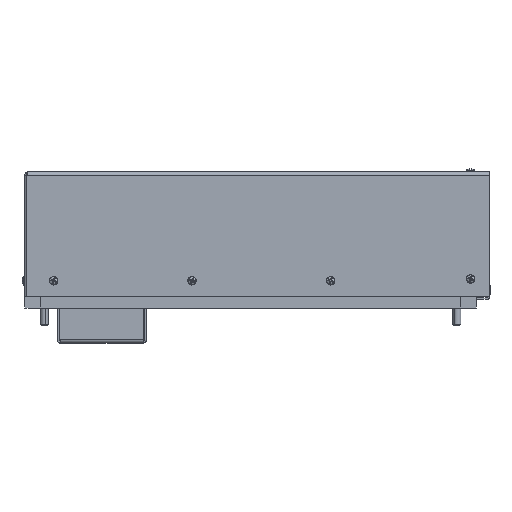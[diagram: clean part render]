
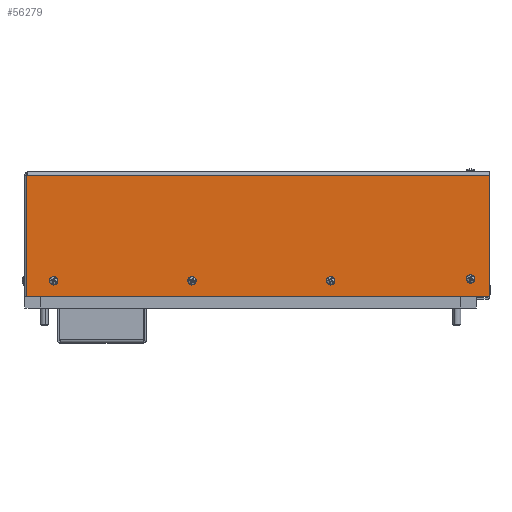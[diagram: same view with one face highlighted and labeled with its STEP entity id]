
A CAD part, left-side view. The second image highlights one B-rep face of the part: STEP entity #56279.
In plain terms, the highlighted planar face has unit normal (-1, 0, 0).
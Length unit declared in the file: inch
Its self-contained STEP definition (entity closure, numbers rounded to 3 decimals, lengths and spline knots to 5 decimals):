
#221 = EDGE_LOOP ( 'NONE', ( #44136, #24552, #30305, #48514 ) ) ;
#2211 = DIRECTION ( 'NONE',  ( 1., 0., 0. ) ) ;
#3047 = ORIENTED_EDGE ( 'NONE', *, *, #59186, .T. ) ;
#4791 = CARTESIAN_POINT ( 'NONE',  ( -7.09, 13.9323, 0.3385 ) ) ;
#5047 = CARTESIAN_POINT ( 'NONE',  ( -7.09, 0.5351, 0.4998 ) ) ;
#5324 = EDGE_CURVE ( 'NONE', #72364, #11125, #74904, .T. ) ;
#5391 = EDGE_CURVE ( 'NONE', #12387, #92620, #35085, .T. ) ;
#5515 = DIRECTION ( 'NONE',  ( 1., 0., 0. ) ) ;
#5801 = CARTESIAN_POINT ( 'NONE',  ( -7.09, 5.0323, 0.5415 ) ) ;
#5974 = AXIS2_PLACEMENT_3D ( 'NONE', #19432, #11313, #78655 ) ;
#5990 = CARTESIAN_POINT ( 'NONE',  ( -7.09, 13.9323, 0.44 ) ) ;
#6752 = AXIS2_PLACEMENT_3D ( 'NONE', #32824, #82582, #91198 ) ;
#7280 = EDGE_CURVE ( 'NONE', #12387, #74825, #19071, .T. ) ;
#8228 = CIRCLE ( 'NONE', #6752, 0.1015 ) ;
#9350 = CARTESIAN_POINT ( 'NONE',  ( -7.09, -0.0899, 3.94 ) ) ;
#9534 = VECTOR ( 'NONE', #90390, 39.37008 ) ;
#9595 = EDGE_CURVE ( 'NONE', #18881, #37401, #46375, .T. ) ;
#11125 = VERTEX_POINT ( 'NONE', #4791 ) ;
#11313 = DIRECTION ( 'NONE',  ( 1., 0., 0. ) ) ;
#12054 = CARTESIAN_POINT ( 'NONE',  ( -7.09, -0.0899, 3.833 ) ) ;
#12250 = DIRECTION ( 'NONE',  ( 0., 0., -1. ) ) ;
#12387 = VERTEX_POINT ( 'NONE', #28330 ) ;
#13098 = VERTEX_POINT ( 'NONE', #43131 ) ;
#13373 = EDGE_LOOP ( 'NONE', ( #3047, #88870 ) ) ;
#14292 = ORIENTED_EDGE ( 'NONE', *, *, #71629, .T. ) ;
#15500 = CARTESIAN_POINT ( 'NONE',  ( -7.09, -0.0899, -0.06 ) ) ;
#16104 = CIRCLE ( 'NONE', #69534, 0.1015 ) ;
#16996 = FACE_BOUND ( 'NONE', #13373, .T. ) ;
#17081 = VECTOR ( 'NONE', #77361, 39.37008 ) ;
#18260 = AXIS2_PLACEMENT_3D ( 'NONE', #30339, #59389, #81947 ) ;
#18881 = VERTEX_POINT ( 'NONE', #5801 ) ;
#19022 = DIRECTION ( 'NONE',  ( 1., 0., 0. ) ) ;
#19071 = LINE ( 'NONE', #84572, #17081 ) ;
#19432 = CARTESIAN_POINT ( 'NONE',  ( -7.09, 5.0323, 0.44 ) ) ;
#20414 = CARTESIAN_POINT ( 'NONE',  ( -7.09, 13.9323, 0.5415 ) ) ;
#21265 = DIRECTION ( 'NONE',  ( 0., 0., -1. ) ) ;
#21369 = AXIS2_PLACEMENT_3D ( 'NONE', #9350, #2211, #23278 ) ;
#23278 = DIRECTION ( 'NONE',  ( 0., 0., -1. ) ) ;
#24552 = ORIENTED_EDGE ( 'NONE', *, *, #5391, .T. ) ;
#25578 = AXIS2_PLACEMENT_3D ( 'NONE', #5047, #5515, #77677 ) ;
#25956 = CARTESIAN_POINT ( 'NONE',  ( -7.09, 0.5351, 0.6013 ) ) ;
#27604 = AXIS2_PLACEMENT_3D ( 'NONE', #5990, #72392, #21265 ) ;
#28330 = CARTESIAN_POINT ( 'NONE',  ( -7.09, 14.78656, 3.833 ) ) ;
#28453 = VERTEX_POINT ( 'NONE', #79880 ) ;
#29125 = VECTOR ( 'NONE', #48883, 39.37008 ) ;
#29491 = EDGE_CURVE ( 'NONE', #13098, #74825, #84643, .T. ) ;
#30010 = DIRECTION ( 'NONE',  ( 0., 0., -1. ) ) ;
#30305 = ORIENTED_EDGE ( 'NONE', *, *, #42320, .T. ) ;
#30339 = CARTESIAN_POINT ( 'NONE',  ( -7.09, 0.5351, 0.4998 ) ) ;
#30882 = FACE_BOUND ( 'NONE', #45826, .T. ) ;
#31095 = CIRCLE ( 'NONE', #58497, 0.1015 ) ;
#31937 = CARTESIAN_POINT ( 'NONE',  ( -7.09, 5.0323, 0.44 ) ) ;
#32824 = CARTESIAN_POINT ( 'NONE',  ( -7.09, 13.9323, 0.44 ) ) ;
#33814 = EDGE_CURVE ( 'NONE', #28453, #44959, #31095, .T. ) ;
#34969 = CIRCLE ( 'NONE', #18260, 0.1015 ) ;
#35085 = LINE ( 'NONE', #93469, #29125 ) ;
#37401 = VERTEX_POINT ( 'NONE', #70337 ) ;
#37530 = DIRECTION ( 'NONE',  ( 1., 0., 0. ) ) ;
#37934 = FACE_BOUND ( 'NONE', #51638, .T. ) ;
#39221 = CIRCLE ( 'NONE', #25578, 0.1015 ) ;
#39943 = EDGE_CURVE ( 'NONE', #41273, #69272, #34969, .T. ) ;
#41217 = ORIENTED_EDGE ( 'NONE', *, *, #39943, .T. ) ;
#41273 = VERTEX_POINT ( 'NONE', #74204 ) ;
#42320 = EDGE_CURVE ( 'NONE', #92620, #13098, #51702, .T. ) ;
#43131 = CARTESIAN_POINT ( 'NONE',  ( -7.09, -0.0899, -0.06 ) ) ;
#44040 = ORIENTED_EDGE ( 'NONE', *, *, #67835, .T. ) ;
#44136 = ORIENTED_EDGE ( 'NONE', *, *, #7280, .F. ) ;
#44959 = VERTEX_POINT ( 'NONE', #65495 ) ;
#45568 = PLANE ( 'NONE',  #21369 ) ;
#45826 = EDGE_LOOP ( 'NONE', ( #44040, #81941 ) ) ;
#45950 = DIRECTION ( 'NONE',  ( 0., -1., 0. ) ) ;
#46375 = CIRCLE ( 'NONE', #93861, 0.1015 ) ;
#48514 = ORIENTED_EDGE ( 'NONE', *, *, #29491, .T. ) ;
#48548 = CIRCLE ( 'NONE', #5974, 0.1015 ) ;
#48883 = DIRECTION ( 'NONE',  ( 0., 0., -1. ) ) ;
#51638 = EDGE_LOOP ( 'NONE', ( #41217, #14292 ) ) ;
#51702 = LINE ( 'NONE', #15500, #75983 ) ;
#54889 = CARTESIAN_POINT ( 'NONE',  ( -7.09, -0.0899, 3.94 ) ) ;
#55675 = CARTESIAN_POINT ( 'NONE',  ( -7.09, 9.4823, 0.44 ) ) ;
#56279 = ADVANCED_FACE ( 'NONE', ( #16996, #37934, #73907, #30882, #59938 ), #45568, .F. ) ;
#58497 = AXIS2_PLACEMENT_3D ( 'NONE', #81126, #37530, #30010 ) ;
#59186 = EDGE_CURVE ( 'NONE', #37401, #18881, #48548, .T. ) ;
#59389 = DIRECTION ( 'NONE',  ( 1., 0., 0. ) ) ;
#59938 = FACE_OUTER_BOUND ( 'NONE', #221, .T. ) ;
#64522 = ORIENTED_EDGE ( 'NONE', *, *, #33814, .T. ) ;
#65495 = CARTESIAN_POINT ( 'NONE',  ( -7.09, 9.4823, 0.5415 ) ) ;
#67835 = EDGE_CURVE ( 'NONE', #11125, #72364, #8228, .T. ) ;
#69272 = VERTEX_POINT ( 'NONE', #25956 ) ;
#69534 = AXIS2_PLACEMENT_3D ( 'NONE', #55675, #84959, #12250 ) ;
#70337 = CARTESIAN_POINT ( 'NONE',  ( -7.09, 5.0323, 0.3385 ) ) ;
#71629 = EDGE_CURVE ( 'NONE', #69272, #41273, #39221, .T. ) ;
#72364 = VERTEX_POINT ( 'NONE', #20414 ) ;
#72392 = DIRECTION ( 'NONE',  ( 1., 0., 0. ) ) ;
#73907 = FACE_BOUND ( 'NONE', #84879, .T. ) ;
#74204 = CARTESIAN_POINT ( 'NONE',  ( -7.09, 0.5351, 0.3983 ) ) ;
#74825 = VERTEX_POINT ( 'NONE', #12054 ) ;
#74904 = CIRCLE ( 'NONE', #27604, 0.1015 ) ;
#75983 = VECTOR ( 'NONE', #45950, 39.37008 ) ;
#77361 = DIRECTION ( 'NONE',  ( 0., -1., 0. ) ) ;
#77677 = DIRECTION ( 'NONE',  ( 0., 0., -1. ) ) ;
#78655 = DIRECTION ( 'NONE',  ( 0., 0., -1. ) ) ;
#79880 = CARTESIAN_POINT ( 'NONE',  ( -7.09, 9.4823, 0.3385 ) ) ;
#81126 = CARTESIAN_POINT ( 'NONE',  ( -7.09, 9.4823, 0.44 ) ) ;
#81941 = ORIENTED_EDGE ( 'NONE', *, *, #5324, .T. ) ;
#81947 = DIRECTION ( 'NONE',  ( 0., 0., -1. ) ) ;
#82582 = DIRECTION ( 'NONE',  ( 1., 0., 0. ) ) ;
#84525 = DIRECTION ( 'NONE',  ( 0., 0., -1. ) ) ;
#84572 = CARTESIAN_POINT ( 'NONE',  ( -7.09, -0.0899, 3.833 ) ) ;
#84643 = LINE ( 'NONE', #54889, #9534 ) ;
#84879 = EDGE_LOOP ( 'NONE', ( #64522, #88123 ) ) ;
#84959 = DIRECTION ( 'NONE',  ( 1., 0., 0. ) ) ;
#87152 = CARTESIAN_POINT ( 'NONE',  ( -7.09, 14.78656, -0.06 ) ) ;
#88123 = ORIENTED_EDGE ( 'NONE', *, *, #91779, .T. ) ;
#88870 = ORIENTED_EDGE ( 'NONE', *, *, #9595, .T. ) ;
#90390 = DIRECTION ( 'NONE',  ( 0., 0., 1. ) ) ;
#91198 = DIRECTION ( 'NONE',  ( 0., 0., -1. ) ) ;
#91779 = EDGE_CURVE ( 'NONE', #44959, #28453, #16104, .T. ) ;
#92620 = VERTEX_POINT ( 'NONE', #87152 ) ;
#93469 = CARTESIAN_POINT ( 'NONE',  ( -7.09, 14.78656, 3.94 ) ) ;
#93861 = AXIS2_PLACEMENT_3D ( 'NONE', #31937, #19022, #84525 ) ;
